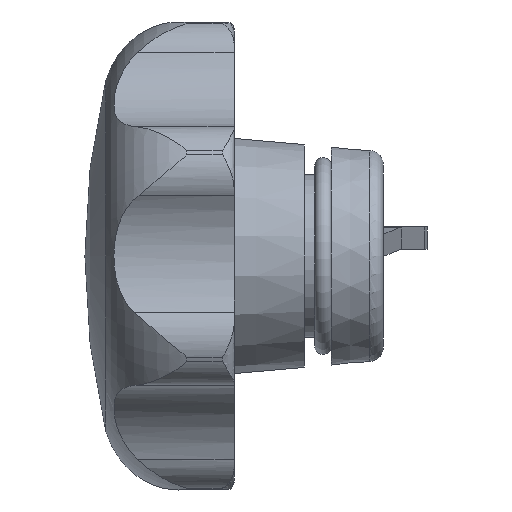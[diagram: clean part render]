
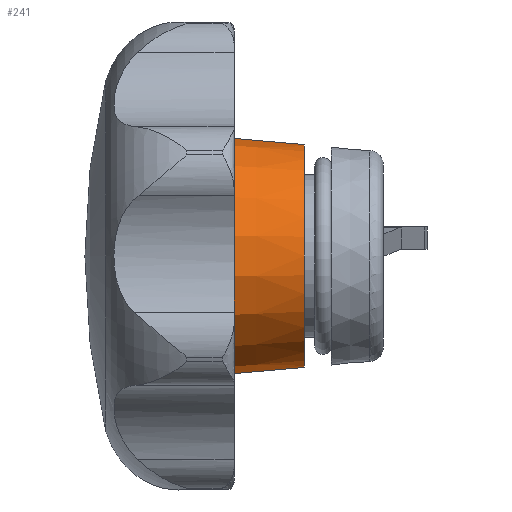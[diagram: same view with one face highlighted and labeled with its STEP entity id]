
A CAD part, left-side view. The second image highlights one B-rep face of the part: STEP entity #241.
In plain terms, the highlighted conical face has half-angle 5 degrees and reference radius 8.312 mm.
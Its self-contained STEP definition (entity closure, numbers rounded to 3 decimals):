
#241 = ADVANCED_FACE( '', ( #496, #497 ), #498, .T. );
#496 = FACE_BOUND( '', #844, .T. );
#497 = FACE_OUTER_BOUND( '', #845, .T. );
#498 = CONICAL_SURFACE( '', #846, 8.312, 0.087 );
#844 = EDGE_LOOP( '', ( #1505 ) );
#845 = EDGE_LOOP( '', ( #1506 ) );
#846 = AXIS2_PLACEMENT_3D( '', #1507, #1508, #1509 );
#1505 = ORIENTED_EDGE( '', *, *, #2317, .F. );
#1506 = ORIENTED_EDGE( '', *, *, #2318, .T. );
#1507 = CARTESIAN_POINT( '', ( 0., 14.976, 0. ) );
#1508 = DIRECTION( '', ( 0., 1., 0. ) );
#1509 = DIRECTION( '', ( 0., 0., 1. ) );
#2317 = EDGE_CURVE( '', #2817, #2817, #2818, .T. );
#2318 = EDGE_CURVE( '', #2819, #2819, #2820, .T. );
#2817 = VERTEX_POINT( '', #4516 );
#2818 = CIRCLE( '', #4517, 7.465 );
#2819 = VERTEX_POINT( '', #4518 );
#2820 = CIRCLE( '', #4519, 8.312 );
#4516 = CARTESIAN_POINT( '', ( 0., 5.3, -7.465 ) );
#4517 = AXIS2_PLACEMENT_3D( '', #5067, #5068, #5069 );
#4518 = CARTESIAN_POINT( '', ( 0., 14.976, -8.312 ) );
#4519 = AXIS2_PLACEMENT_3D( '', #5070, #5071, #5072 );
#5067 = CARTESIAN_POINT( '', ( 0., 5.3, 0. ) );
#5068 = DIRECTION( '', ( 0., -1., 0. ) );
#5069 = DIRECTION( '', ( 0., 0., -1. ) );
#5070 = CARTESIAN_POINT( '', ( 0., 14.976, 0. ) );
#5071 = DIRECTION( '', ( 0., -1., 0. ) );
#5072 = DIRECTION( '', ( 0., 0., -1. ) );
